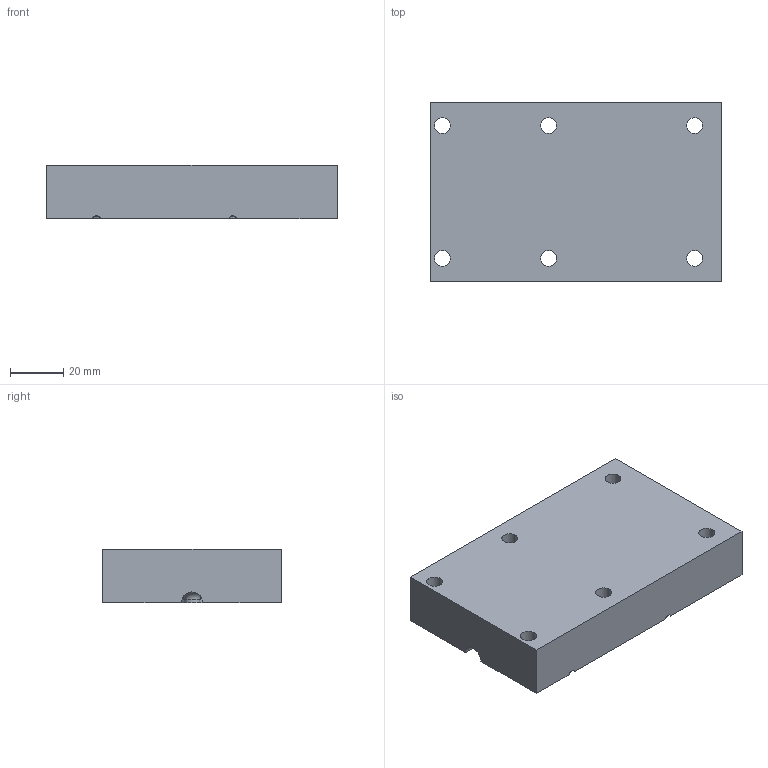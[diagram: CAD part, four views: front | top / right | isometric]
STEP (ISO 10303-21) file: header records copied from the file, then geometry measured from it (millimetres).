
FILE_DESCRIPTION(/* description */ ('STEP AP242','CAx-IF Rec.Pracs.---Representation and Presentation of Product Manufacturing Information (PMI)---4.0---2014-10-13','CAx-IF Rec.Pracs.---3D Tessellated Geometry---0.4---2014-09-14','2;1'),/* implementation_level */ '2;1');
FILE_NAME(/* name */ '63356971a4a3282a9d9681e6',/* time_stamp */ '2022-09-29T09:46:25+00:00',/* author */ (''),/* organization */ (''),/* preprocessor_version */ 'ST-DEVELOPER v18.102',/* originating_system */ ' ',/* authorisation */ ' ');
FILE_SCHEMA (('AP242_MANAGED_MODEL_BASED_3D_ENGINEERING_MIM_LF { 1 0 10303 442 1 1 4 }'));
Length unit declared in the file: metre
Products named in the file (1): moule decaps V1 v9
Bounding box: 109.43 x 67.35 x 20 mm (x, y, z)
Volume: 134598.2 mm3; surface area: 24824.6 mm2
Topology: 1 solids, 1 shells, 61 faces, 154 edges, 98 vertices
Faces by surface type: plane 19, cylinder 15, torus 13, cone 12, bspline 2
Full cylindrical faces by diameter (mm): 6 x7
Entity records: 1867 total; most frequent: CARTESIAN_POINT 362, DIRECTION 332, ORIENTED_EDGE 284, EDGE_CURVE 142, AXIS2_PLACEMENT_3D 141, VERTEX_POINT 96, EDGE_LOOP 86, FACE_BOUND 86
